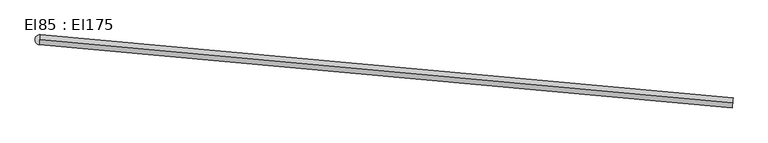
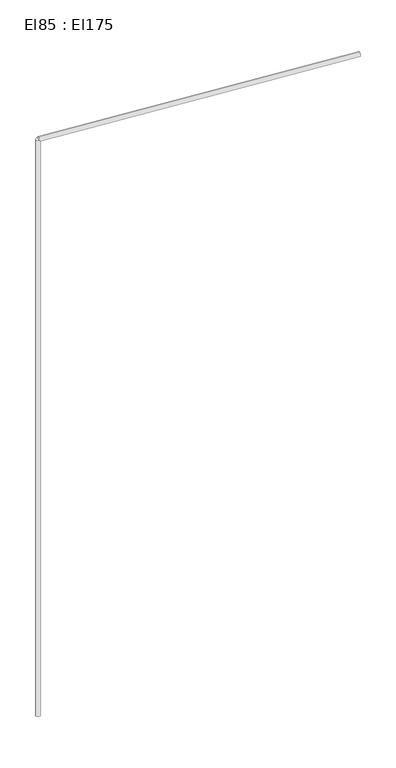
"""IFC4 building model written with IfcOpenShell, lengths in millimetres: cable carrier segment geometry, El85 : El175."""

from ifc_helpers import new_model, si_unit, point, frame, frame_2d, origin, place, context, project, spatial, circle_curve, trimmed, segment, composite_curve, outline, extrude, source, transform, mapped, element, save


def el85_el175_2161bc5c(model_context):
    return source(origin(), model_context, "Body", "SweptSolid", [
        extrude(outline(composite_curve([segment(trimmed(circle_curve(frame_2d((114.4746511, 22437.9446745)), 9.5), [point((104.9746511, 22437.9446745))], [point((123.9746511, 22437.9446745))], False, "CARTESIAN"), True, "CONTINUOUS"), segment(trimmed(circle_curve(frame_2d((114.4746511, 22437.9446745)), 9.5), [point((123.9746511, 22437.9446745))], [point((104.9746511, 22437.9446745))], False, "CARTESIAN"), True, "CONTINUOUS")], self_intersect=False)), frame((0.0, 0.0, 1830.0), z_axis=(0.0, 0.0, 1.0), x_axis=(1.0, 0.0, 0.0)), (0.0, 0.0, 1.0), 2620.0),
        extrude(outline(composite_curve([segment(trimmed(circle_curve(frame_2d((0.0, -9.5)), 9.5), [point((0.0, -19.0))], [point((0.0, 0.0))], False, "CARTESIAN"), True, "CONTINUOUS"), segment(trimmed(circle_curve(frame_2d((0.0, -9.5)), 9.5), [point((0.0, 0.0))], [point((0.0, -19.0))], False, "CARTESIAN"), True, "CONTINUOUS")], self_intersect=False)), frame((1427.6916511, 22318.2404745, 4459.5), z_axis=(-0.9958712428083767, 0.09077702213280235, 0.0), x_axis=(-0.09077702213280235, -0.9958712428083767, 0.0)), (0.0, 0.0, 1.0), 1318.66),
    ])


if __name__ == "__main__":
    model = new_model("IFC4")
    model_context = context("Model", 3, world=origin())
    ifc_project = project(units=[si_unit("LENGTHUNIT", "METRE", prefix="MILLI")], contexts=[model_context])
    site = spatial("IfcSite", under=ifc_project)
    building = spatial("IfcBuilding", under=site)
    placement = place(None, origin())
    el85_el175_shape = el85_el175_2161bc5c(model_context)
    element("IfcCableCarrierSegment", 1, ObjectType="El85 : El175", at=placement, inside=building, context=model_context, shape_type="MappedRepresentation", body=[
        mapped(el85_el175_shape, transform((0.0, 0.0, 0.0), x_axis=(1.0, 0.0, 0.0), y_axis=(0.0, 1.0, 0.0), z_axis=(0.0, 0.0, 1.0))),
    ])
    save(model, "model.ifc")
